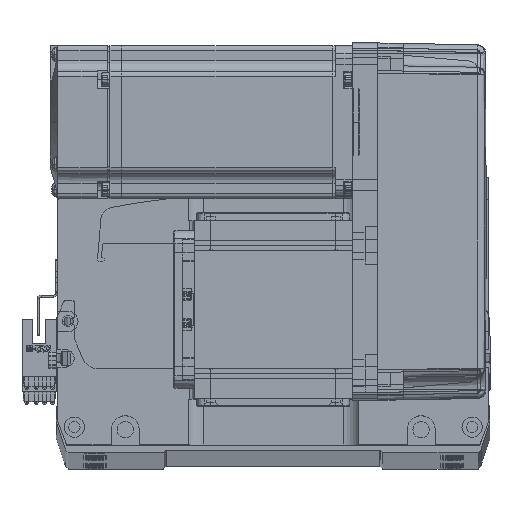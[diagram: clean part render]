
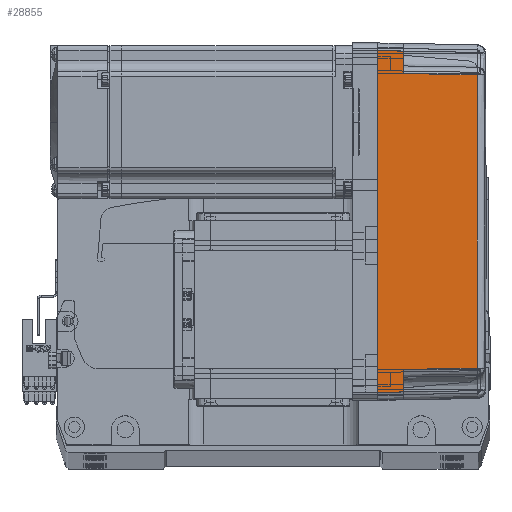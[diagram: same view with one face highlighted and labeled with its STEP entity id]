
A CAD part, top view. The second image highlights one B-rep face of the part: STEP entity #28855.
In plain terms, the highlighted planar face has unit normal (0.018, 0, 1) as drawn and (0, -1, 0.017) by its records, which use the part's own axes.
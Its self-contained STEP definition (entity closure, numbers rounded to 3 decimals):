
#321 = CARTESIAN_POINT ( 'NONE',  ( 70., -36., 0. ) ) ;
#2773 = VECTOR ( 'NONE', #4924, 1000. ) ;
#2953 = EDGE_CURVE ( 'NONE', #22208, #38396, #47487, .T. ) ;
#3901 = CARTESIAN_POINT ( 'NONE',  ( 67., -36., 0. ) ) ;
#4665 = EDGE_LOOP ( 'NONE', ( #10253, #72300, #25904, #66318, #6962, #44505, #37494, #60738 ) ) ;
#4793 = CARTESIAN_POINT ( 'NONE',  ( 58., -35.825, 10. ) ) ;
#4924 = DIRECTION ( 'NONE',  ( -0.017, 0.017, 1. ) ) ;
#5401 = EDGE_CURVE ( 'NONE', #31927, #20105, #65560, .T. ) ;
#6353 = EDGE_CURVE ( 'NONE', #20105, #47528, #15129, .T. ) ;
#6962 = ORIENTED_EDGE ( 'NONE', *, *, #54934, .T. ) ;
#9166 = LINE ( 'NONE', #61594, #25107 ) ;
#9480 = VERTEX_POINT ( 'NONE', #57961 ) ;
#9854 = CARTESIAN_POINT ( 'NONE',  ( 58., -35.825, 10. ) ) ;
#10253 = ORIENTED_EDGE ( 'NONE', *, *, #64604, .T. ) ;
#11608 = CARTESIAN_POINT ( 'NONE',  ( 70., -35.825, 10. ) ) ;
#13267 = CARTESIAN_POINT ( 'NONE',  ( -66.959, -35.958, 2.39 ) ) ;
#15129 = B_SPLINE_CURVE_WITH_KNOTS ( 'NONE', 3,
 ( #18527, #23995, #63251, #29223 ),
 .UNSPECIFIED., .F., .F.,
 ( 4, 4 ),
 ( 0., 1. ),
 .UNSPECIFIED. ) ;
#17709 = FACE_OUTER_BOUND ( 'NONE', #4665, .T. ) ;
#17894 = LINE ( 'NONE', #13267, #58628 ) ;
#18527 = CARTESIAN_POINT ( 'NONE',  ( 57.495, -35.32, 38.985 ) ) ;
#20105 = VERTEX_POINT ( 'NONE', #61459 ) ;
#20956 = DIRECTION ( 'NONE',  ( -1., 0., 0. ) ) ;
#21109 = EDGE_CURVE ( 'NONE', #66223, #31927, #49517, .T. ) ;
#21547 = DIRECTION ( 'NONE',  ( -0.017, 0.017, 1. ) ) ;
#22208 = VERTEX_POINT ( 'NONE', #37261 ) ;
#22936 = CARTESIAN_POINT ( 'NONE',  ( -57.495, -35.32, 38.985 ) ) ;
#23995 = CARTESIAN_POINT ( 'NONE',  ( 19.165, -35.316, 39.181 ) ) ;
#25107 = VECTOR ( 'NONE', #50041, 1000. ) ;
#25904 = ORIENTED_EDGE ( 'NONE', *, *, #5401, .T. ) ;
#26883 = CARTESIAN_POINT ( 'NONE',  ( 70., -35.825, 10. ) ) ;
#28855 = ADVANCED_FACE ( 'NONE', ( #17709 ), #34284, .T. ) ;
#29223 = CARTESIAN_POINT ( 'NONE',  ( -57.495, -35.32, 38.985 ) ) ;
#29484 = VERTEX_POINT ( 'NONE', #3901 ) ;
#31927 = VERTEX_POINT ( 'NONE', #4793 ) ;
#32364 = CARTESIAN_POINT ( 'NONE',  ( 66.826, -35.825, 10. ) ) ;
#34284 = PLANE ( 'NONE',  #60533 ) ;
#35058 = LINE ( 'NONE', #22936, #50091 ) ;
#36300 = DIRECTION ( 'NONE',  ( 0.017, 0.017, 1. ) ) ;
#37261 = CARTESIAN_POINT ( 'NONE',  ( -58., -35.825, 10. ) ) ;
#37494 = ORIENTED_EDGE ( 'NONE', *, *, #71975, .F. ) ;
#37960 = EDGE_CURVE ( 'NONE', #29484, #9480, #9166, .T. ) ;
#38396 = VERTEX_POINT ( 'NONE', #44295 ) ;
#44295 = CARTESIAN_POINT ( 'NONE',  ( -66.826, -35.825, 10. ) ) ;
#44505 = ORIENTED_EDGE ( 'NONE', *, *, #2953, .T. ) ;
#47487 = LINE ( 'NONE', #11608, #50111 ) ;
#47528 = VERTEX_POINT ( 'NONE', #50384 ) ;
#49517 = LINE ( 'NONE', #26883, #67113 ) ;
#50041 = DIRECTION ( 'NONE',  ( -1., 0., 0. ) ) ;
#50091 = VECTOR ( 'NONE', #68082, 1000. ) ;
#50111 = VECTOR ( 'NONE', #50966, 1000. ) ;
#50384 = CARTESIAN_POINT ( 'NONE',  ( -57.495, -35.32, 38.985 ) ) ;
#50966 = DIRECTION ( 'NONE',  ( -1., 0., 0. ) ) ;
#53238 = DIRECTION ( 'NONE',  ( 0., -1., 0.017 ) ) ;
#54686 = CARTESIAN_POINT ( 'NONE',  ( 67., -36., 0. ) ) ;
#54934 = EDGE_CURVE ( 'NONE', #47528, #22208, #35058, .T. ) ;
#57961 = CARTESIAN_POINT ( 'NONE',  ( -67., -36., 0. ) ) ;
#58628 = VECTOR ( 'NONE', #36300, 1000. ) ;
#60533 = AXIS2_PLACEMENT_3D ( 'NONE', #321, #53238, #63598 ) ;
#60540 = LINE ( 'NONE', #54686, #61461 ) ;
#60738 = ORIENTED_EDGE ( 'NONE', *, *, #37960, .F. ) ;
#61459 = CARTESIAN_POINT ( 'NONE',  ( 57.495, -35.32, 38.985 ) ) ;
#61461 = VECTOR ( 'NONE', #21547, 1000. ) ;
#61594 = CARTESIAN_POINT ( 'NONE',  ( 0., -36., 0. ) ) ;
#63251 = CARTESIAN_POINT ( 'NONE',  ( -19.165, -35.316, 39.181 ) ) ;
#63598 = DIRECTION ( 'NONE',  ( 0., -0.017, -1. ) ) ;
#64604 = EDGE_CURVE ( 'NONE', #29484, #66223, #60540, .T. ) ;
#65560 = LINE ( 'NONE', #9854, #2773 ) ;
#66223 = VERTEX_POINT ( 'NONE', #32364 ) ;
#66318 = ORIENTED_EDGE ( 'NONE', *, *, #6353, .T. ) ;
#67113 = VECTOR ( 'NONE', #20956, 1000. ) ;
#68082 = DIRECTION ( 'NONE',  ( -0.017, -0.017, -1. ) ) ;
#71975 = EDGE_CURVE ( 'NONE', #9480, #38396, #17894, .T. ) ;
#72300 = ORIENTED_EDGE ( 'NONE', *, *, #21109, .T. ) ;
